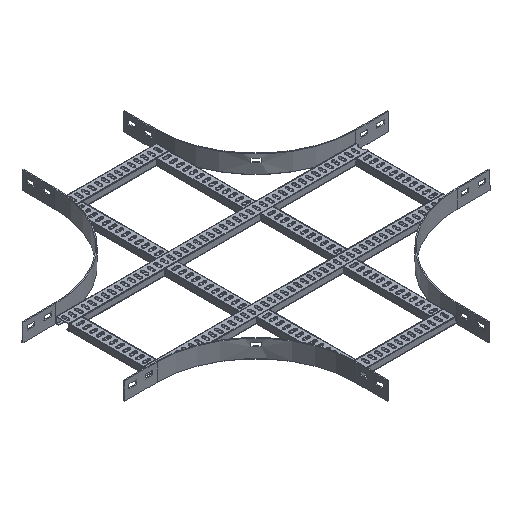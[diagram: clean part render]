
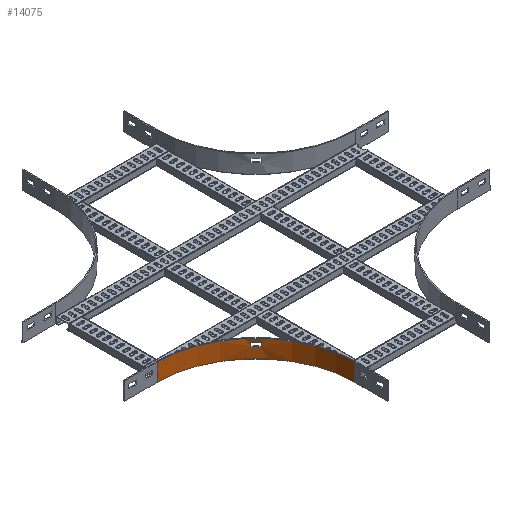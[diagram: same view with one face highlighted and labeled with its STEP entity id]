
A CAD part, isometric view. The second image highlights one B-rep face of the part: STEP entity #14075.
In plain terms, the highlighted cylindrical face has radius 300 mm (diameter 600 mm), a partial arc.
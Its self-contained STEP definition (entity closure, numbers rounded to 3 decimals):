
#403=FACE_BOUND('',#2073,.T.);
#675=CYLINDRICAL_SURFACE('',#14827,300.);
#720=CIRCLE('',#14819,300.);
#725=CIRCLE('',#14826,300.);
#726=CIRCLE('',#14828,300.);
#727=CIRCLE('',#14829,300.);
#1347=FACE_OUTER_BOUND('',#2072,.T.);
#2072=EDGE_LOOP('',(#9536,#9537,#9538,#9539));
#2073=EDGE_LOOP('',(#9540,#9541,#9542,#9543));
#3067=LINE('',#19651,#4535);
#3069=LINE('',#19657,#4537);
#3074=LINE('',#19681,#4542);
#3075=LINE('',#19684,#4543);
#4535=VECTOR('',#15967,304.8);
#4537=VECTOR('',#15971,304.8);
#4542=VECTOR('',#15998,304.8);
#4543=VECTOR('',#16001,304.8);
#6000=VERTEX_POINT('',#19644);
#6003=VERTEX_POINT('',#19649);
#6005=VERTEX_POINT('',#19654);
#6006=VERTEX_POINT('',#19656);
#6012=VERTEX_POINT('',#19677);
#6013=VERTEX_POINT('',#19678);
#6014=VERTEX_POINT('',#19680);
#6015=VERTEX_POINT('',#19682);
#7403=EDGE_CURVE('',#6003,#6000,#3067,.T.);
#7405=EDGE_CURVE('',#6005,#6006,#3069,.T.);
#7408=EDGE_CURVE('',#6000,#6005,#720,.T.);
#7415=EDGE_CURVE('',#6006,#6003,#725,.T.);
#7416=EDGE_CURVE('',#6012,#6013,#726,.T.);
#7417=EDGE_CURVE('',#6013,#6014,#3074,.T.);
#7418=EDGE_CURVE('',#6014,#6015,#727,.T.);
#7419=EDGE_CURVE('',#6015,#6012,#3075,.T.);
#9536=ORIENTED_EDGE('',*,*,#7403,.F.);
#9537=ORIENTED_EDGE('',*,*,#7415,.F.);
#9538=ORIENTED_EDGE('',*,*,#7405,.F.);
#9539=ORIENTED_EDGE('',*,*,#7408,.F.);
#9540=ORIENTED_EDGE('',*,*,#7416,.T.);
#9541=ORIENTED_EDGE('',*,*,#7417,.T.);
#9542=ORIENTED_EDGE('',*,*,#7418,.T.);
#9543=ORIENTED_EDGE('',*,*,#7419,.T.);
#14075=ADVANCED_FACE('',(#1347,#403),#675,.F.);
#14819=AXIS2_PLACEMENT_3D('',#19662,#15976,#15977);
#14826=AXIS2_PLACEMENT_3D('',#19675,#15992,#15993);
#14827=AXIS2_PLACEMENT_3D('',#19676,#15994,#15995);
#14828=AXIS2_PLACEMENT_3D('',#19679,#15996,#15997);
#14829=AXIS2_PLACEMENT_3D('',#19683,#15999,#16000);
#15967=DIRECTION('',(0.,0.,1.));
#15971=DIRECTION('',(0.,0.,-1.));
#15976=DIRECTION('center_axis',(0.,0.,-1.));
#15977=DIRECTION('ref_axis',(0.,1.,0.));
#15992=DIRECTION('center_axis',(0.,0.,1.));
#15993=DIRECTION('ref_axis',(0.,1.,0.));
#15994=DIRECTION('center_axis',(0.,0.,-1.));
#15995=DIRECTION('ref_axis',(0.,1.,0.));
#15996=DIRECTION('center_axis',(0.,0.,-1.));
#15997=DIRECTION('ref_axis',(0.,1.,0.));
#15998=DIRECTION('',(0.,0.,-1.));
#15999=DIRECTION('center_axis',(0.,0.,1.));
#16000=DIRECTION('ref_axis',(0.,1.,0.));
#16001=DIRECTION('',(0.,0.,1.));
#19644=CARTESIAN_POINT('',(-455.5,-155.5,27.));
#19649=CARTESIAN_POINT('',(-455.5,-155.5,-27.));
#19651=CARTESIAN_POINT('',(-455.5,-155.5,-27.));
#19654=CARTESIAN_POINT('',(-155.5,-455.5,27.));
#19656=CARTESIAN_POINT('',(-155.5,-455.5,-27.));
#19657=CARTESIAN_POINT('',(-155.5,-455.5,27.));
#19662=CARTESIAN_POINT('Origin',(-455.5,-455.5,27.));
#19675=CARTESIAN_POINT('Origin',(-455.5,-455.5,-27.));
#19676=CARTESIAN_POINT('Origin',(-455.5,-455.5,0.));
#19677=CARTESIAN_POINT('',(-251.26,-235.759,15.5));
#19678=CARTESIAN_POINT('',(-235.706,-251.318,15.5));
#19679=CARTESIAN_POINT('Origin',(-455.5,-455.5,15.5));
#19680=CARTESIAN_POINT('',(-235.706,-251.318,4.5));
#19681=CARTESIAN_POINT('',(-235.706,-251.318,15.5));
#19682=CARTESIAN_POINT('',(-251.26,-235.759,4.5));
#19683=CARTESIAN_POINT('Origin',(-455.5,-455.5,4.5));
#19684=CARTESIAN_POINT('',(-251.26,-235.759,4.5));
